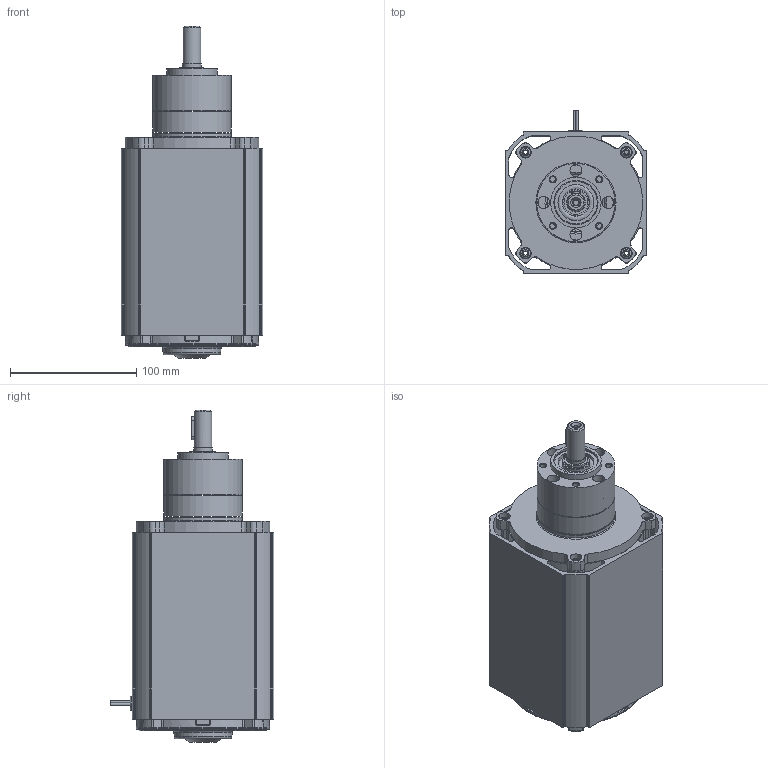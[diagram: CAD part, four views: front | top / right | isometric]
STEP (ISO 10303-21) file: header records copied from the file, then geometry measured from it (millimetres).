
FILE_DESCRIPTION (( 'STEP AP214' ), '1' );
FILE_NAME ('AC10060NV-PL6200i_1S.STEP', '2014-05-05T15:55:43', ( '' ), ( '' ), 'SwSTEP 2.0', 'SolidWorks 2014', '' );
FILE_SCHEMA (( 'AUTOMOTIVE_DESIGN' ));
Length unit declared in the file: inch
Products named in the file (1): AC10060NV-PL6200i_1S
Bounding box: 112.37 x 129.73 x 262.98 mm (x, y, z)
Surface area: 183165.5 mm2 (no closed solid volume)
Topology: 0 solids, 56 shells, 589 faces, 2409 edges, 1852 vertices
Faces by surface type: cylinder 231, plane 225, bspline 75, torus 29, cone 29
Full cylindrical faces by diameter (mm): 1.905 x4, 2 x2, 4.166 x8, 4.5 x4, 5.3 x1, 9.144 x8, 9.5 x4, 11.113 x1, 14 x1, 14.3 x1, 15 x1, 21 x1, 21.52 x1, 28.48 x1, 35.1 x1, 40 x1, 61.976 x1, 62 x2, 101.981 x1
Entity records: 37402 total; most frequent: CARTESIAN_POINT 11224, DIRECTION 3652, ORIENTED_EDGE 3340, EDGE_CURVE 2314, VERTEX_POINT 1836, AXIS2_PLACEMENT_3D 1288, LINE 1076, VECTOR 1076
